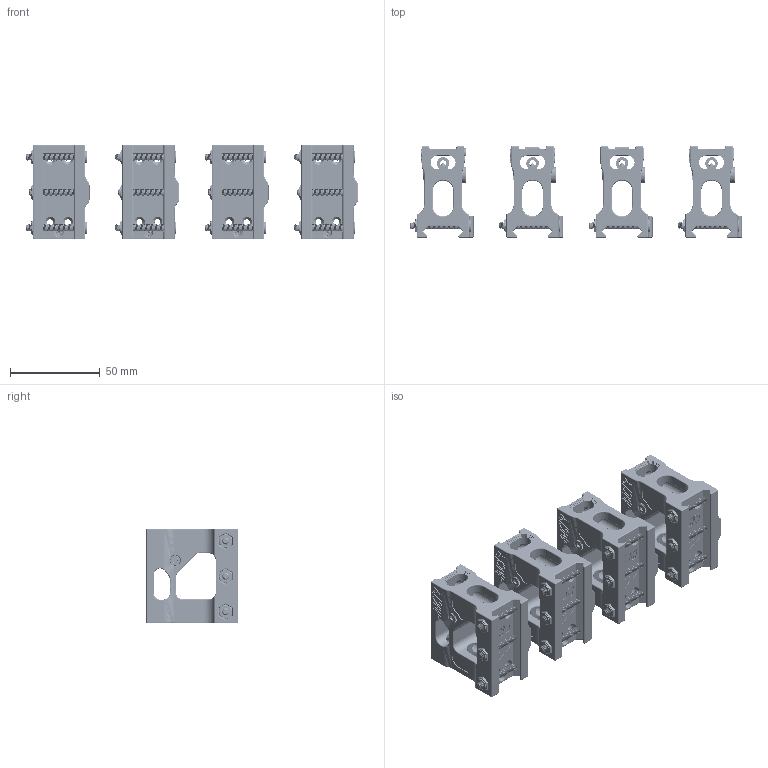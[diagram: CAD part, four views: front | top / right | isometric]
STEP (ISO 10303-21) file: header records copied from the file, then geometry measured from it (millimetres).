
FILE_DESCRIPTION(/* description */ (''),/* implementation_level */ '2;1');
FILE_NAME(/* name */ 'C:/Users/Drew/Documents/guncad/Unity RIser - RC5/Drip_Lyft.step',/* time_stamp */ '2022-02-14T12:52:11-07:00',/* author */ (''),/* organization */ (''),/* preprocessor_version */ 'ST-DEVELOPER v18.1',/* originating_system */ 'Autodesk Translation Framework v10.13.0.1454',/* authorisation */ '');
FILE_SCHEMA (('AUTOMOTIVE_DESIGN { 1 0 10303 214 3 1 1 }'));
Products named in the file (45): Aimbot Unity Riser; Unity Riser - ODG Gang Special Edition ; hardware; prail hardware; 93800A127_Nylon Hex Nut; 91290A172_Black-Oxide Alloy Steel Socket Head Screw; Iron Sight Hardware; 91290A123_Black-Oxide Alloy Steel Socket Head Screw; 91217A076_18-8 Stainless Steel Cone-Point Set Screw; 92015A093_18-8 Stainless Steel Cup-Point Set Screw; rear sight; windage adjustment v1; Unity Riser; hardware (1); prail hardware (1); 93800A127_Nylon Hex Nut (1); 91290A172_Black-Oxide Alloy Steel Socket Head Screw (1); Iron Sight Hardware (1); 91290A123_Black-Oxide Alloy Steel Socket Head Screw (1); 91217A076_18-8 Stainless Steel Cone-Point Set Screw (1); 92015A093_18-8 Stainless Steel Cup-Point Set Screw (1); rear sight (1); windage adjustment v1 (1); Unity Riser - Pinty Edition; hardware (1) (1); prail hardware (1) (1); 93800A127_Nylon Hex Nut (1) (1); 91290A172_Black-Oxide Alloy Steel Socket Head Screw (1) (1); Iron Sight Hardware (1) (1); 91290A123_Black-Oxide Alloy Steel Socket Head Screw (1) (1); 91217A076_18-8 Stainless Steel Cone-Point Set Screw (1) (1); 92015A093_18-8 Stainless Steel Cup-Point Set Screw (1) (1); rear sight (1) (1); windage adjustment v1 (1) (1); Unity Riser - ODG Gang Special Edition  Pinty Edition; hardware (2); prail hardware (2); 93800A127_Nylon Hex Nut (2); 91290A172_Black-Oxide Alloy Steel Socket Head Screw (2); Iron Sight Hardware (2)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
Assembly tree (60 placements, depth 5):
  Aimbot Unity Riser
    Unity Riser - ODG Gang Special Edition 
      hardware
        prail hardware
          93800A127_Nylon Hex Nut  x3
          91290A172_Black-Oxide Alloy Steel Socket Head Screw  x3
        Iron Sight Hardware
          91290A123_Black-Oxide Alloy Steel Socket Head Screw
          91217A076_18-8 Stainless Steel Cone-Point Set Screw
          92015A093_18-8 Stainless Steel Cup-Point Set Screw
      rear sight
      windage adjustment v1
    Unity Riser
      hardware (1)
        prail hardware (1)
          93800A127_Nylon Hex Nut (1)  x3
          91290A172_Black-Oxide Alloy Steel Socket Head Screw (1)  x3
        Iron Sight Hardware (1)
          91290A123_Black-Oxide Alloy Steel Socket Head Screw (1)
          91217A076_18-8 Stainless Steel Cone-Point Set Screw (1)
          92015A093_18-8 Stainless Steel Cup-Point Set Screw (1)
      rear sight (1)
      windage adjustment v1 (1)
    Unity Riser - Pinty Edition
      hardware (1) (1)
        prail hardware (1) (1)
          93800A127_Nylon Hex Nut (1) (1)  x3
          91290A172_Black-Oxide Alloy Steel Socket Head Screw (1) (1)  x3
        Iron Sight Hardware (1) (1)
          91290A123_Black-Oxide Alloy Steel Socket Head Screw (1) (1)
          91217A076_18-8 Stainless Steel Cone-Point Set Screw (1) (1)
          92015A093_18-8 Stainless Steel Cup-Point Set Screw (1) (1)
      rear sight (1) (1)
      windage adjustment v1 (1) (1)
    Unity Riser - ODG Gang Special Edition  Pinty Edition
      hardware (2)
        prail hardware (2)
          93800A127_Nylon Hex Nut (2)  x3
          91290A172_Black-Oxide Alloy Steel Socket Head Screw (2)  x3
        Iron Sight Hardware (2)
          91290A123_Black-Oxide Alloy Steel Socket Head Screw (2)
          91217A076_18-8 Stainless Steel Cone-Point Set Screw (2)
          92015A093_18-8 Stainless Steel Cup-Point Set Screw (2)
      rear sight (2)
      windage adjustment v1 (2)
Bounding box: 185.48 x 51.05 x 52.83 mm (x, y, z)
Volume: 122100.2 mm3; surface area: 86273.8 mm2
Topology: 48 solids, 48 shells, 12928 faces, 34636 edges, 22548 vertices
Faces by surface type: plane 4780, bspline 4564, cylinder 2804, cone 372, torus 304, sphere 104
Full cylindrical faces by diameter (mm): 1.48 x56, 2 x48, 2.35 x220, 2.6 x4, 2.7 x4, 3 x220, 3.091 x492, 3.15 x4, 3.3 x24, 3.564 x4, 4 x544, 4.3 x8, 4.5 x8, 5.5 x4, 5.9 x4, 5.984 x12, 6 x32, 7 x12, 7.4 x12, 9.291 x4, 9.691 x4
Entity records: 574212 total; most frequent: CARTESIAN_POINT 310693, ORIENTED_EDGE 63376, DIRECTION 39374, EDGE_CURVE 31688, VERTEX_POINT 20652, LINE 15588, VECTOR 15588, EDGE_LOOP 12844
